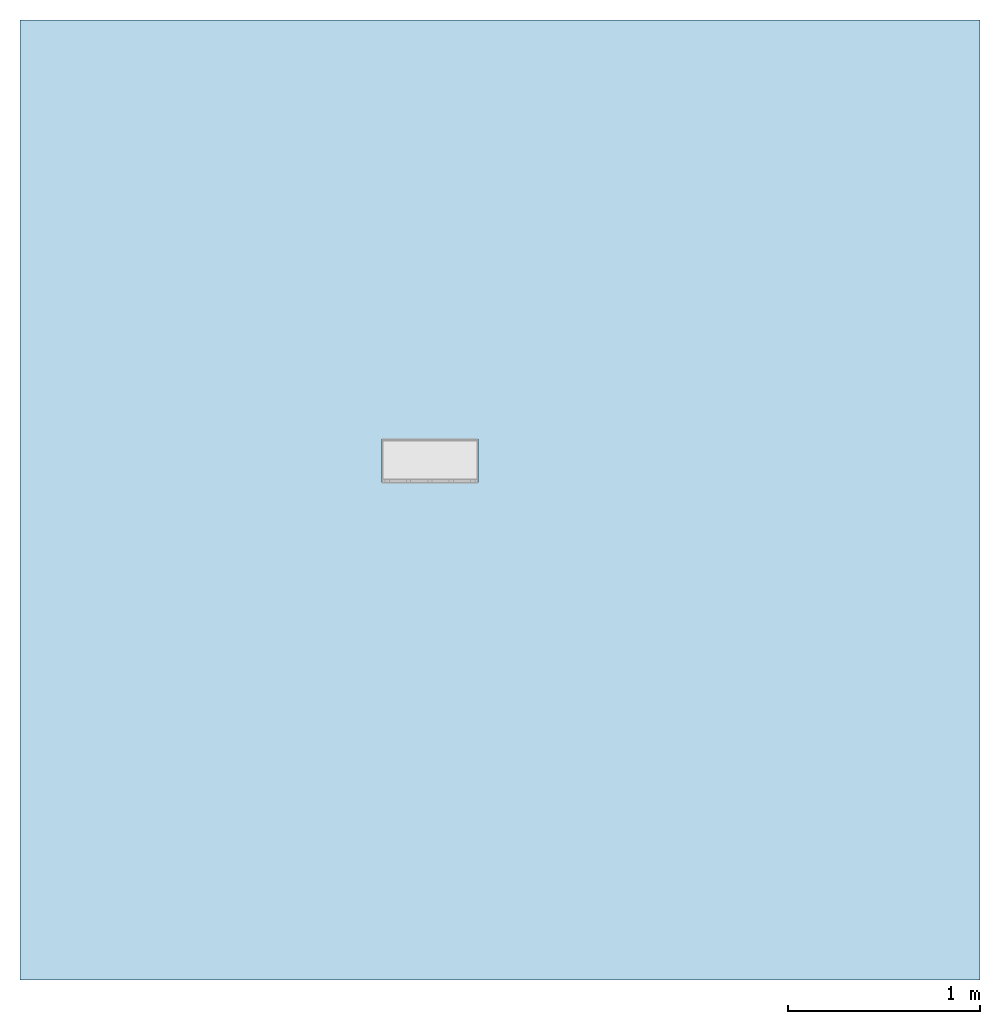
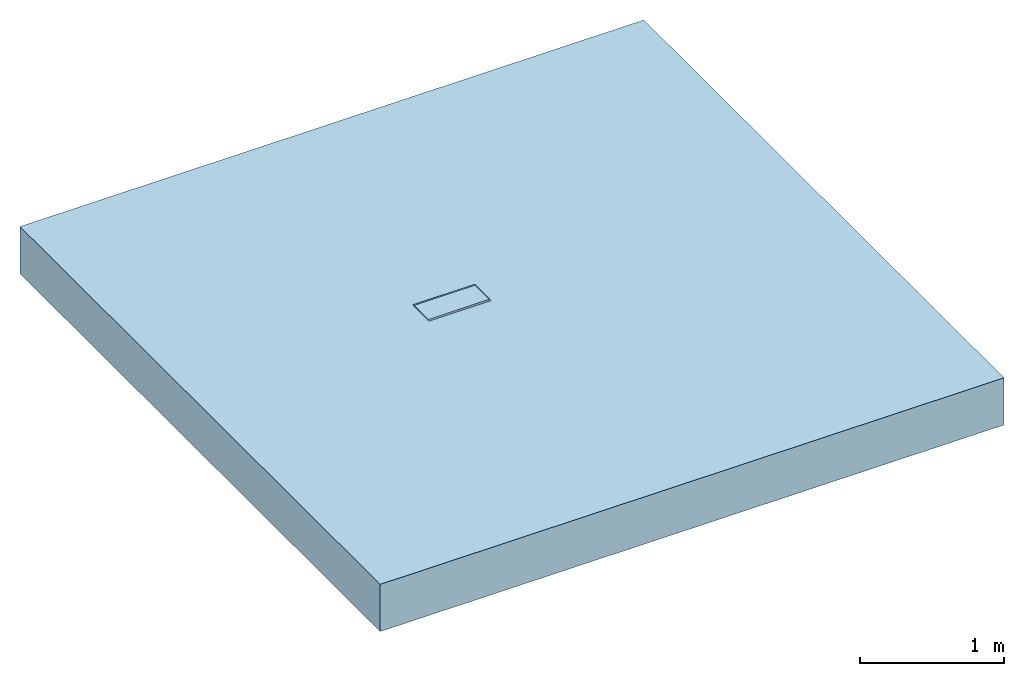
# One storey, incomplete: 1 slab, 2 openings.
"""IFC2X3 building model written with IfcOpenShell, lengths in millimetres."""

from ifc_helpers import new_model, entity, si_unit, converted_unit, direction, frame, frame_2d, origin, origin_2d_with_axis, place, context, subcontext, project, spatial, rectangle, extrude, faceted_brep, material, layer, layer_set, layer_usage, element, save


model = new_model("IFC2X3")

# Units and contexts
model_context = context("Model", 3, precision=1e-06, world=origin(), true_north=direction((2.0, 6.12303176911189e-17, 1.0)))
context_of_model = context(None, 3, precision=1e-06, world=origin(), true_north=direction((2.0, 6.12303176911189e-17, 1.0)))
body_context = subcontext(model_context, "Body", "Model", "MODEL_VIEW")
ifc_project = project(units=[si_unit("LENGTHUNIT", "METRE", prefix="MILLI"), si_unit("AREAUNIT", "SQUARE_METRE", prefix="MILLI"), si_unit("VOLUMEUNIT", "CUBIC_METRE", prefix="MILLI"), converted_unit("PLANEANGLEUNIT", "DEGREE", entity("IfcRatioMeasure", 0.0174532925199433), si_unit("PLANEANGLEUNIT", "RADIAN"), dimensions=[0, 0, 0, 0, 0, 0, 0]), si_unit("TIMEUNIT", "SECOND")], contexts=[model_context, context_of_model])

# Site, building, storey
site_placement = place(None, origin())
site = spatial("IfcSite", under=ifc_project, at=site_placement, Name="Default", CompositionType="ELEMENT")
building_placement = place(site_placement, origin())
building = spatial("IfcBuilding", under=site, at=building_placement, CompositionType="ELEMENT")
storey_placement = place(building_placement, origin())
storey = spatial("IfcBuildingStorey", under=building, at=storey_placement, Name="Level 1", CompositionType="ELEMENT", Elevation=0.0)

# Slab, openings
ifc_material = material(Name="Earth")
ifc_layer = layer(ifc_material, 400.0)
ifc_layer_set = layer_set([ifc_layer], Name="Floor:Generic Floor - 400mm")
ifc_layer_usage = layer_usage(ifc_layer_set, "AXIS3", "POSITIVE", 0.0)
slab_placement = place(storey_placement, origin())
slab = element("IfcSlab", 1, at=slab_placement, inside=storey, material=ifc_layer_usage, Name="Floor:Generic Floor - 400mm", ObjectType="Floor:Generic Floor - 400mm", PredefinedType="FLOOR", context=body_context, shape_type="SweptSolid", body=[
    extrude(rectangle(XDim=5000.0, YDim=5000.0, at=frame_2d((0.0, 0.0), x_axis=(0.0, -1.0))), frame((0.0, 0.0, 0.0), z_axis=(0.0, 0.0, -1.0), x_axis=(-1.0, 0.0, 0.0)), (0.0, 0.0, 1.0), 400.0),
])
opening_1_placement = place(slab_placement, frame((-614.877498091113, 85.9392836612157, -895.0)))
element("IfcOpeningElement", 2, at=opening_1_placement, cuts=slab, ObjectType="Opening", context=body_context, shape_type="SweptSolid", body=[
    extrude(rectangle(XDim=18.0000000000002, YDim=500.0, at=origin_2d_with_axis()), frame((-364.877498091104, 99.1892836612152, -6605.0), z_axis=(0.0, 0.0, 1.0), x_axis=(0.0, 1.0, 0.0)), (0.0, 0.0, 1.0), 105.00000000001),
])
opening_2_placement = place(slab_placement, frame((-614.877498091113, 85.9392836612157, -895.0)))
element("IfcOpeningElement", 3, at=opening_2_placement, cuts=slab, ObjectType="Opening", context=body_context, shape_type="Brep", body=[
    faceted_brep([(0.0, 4.24999999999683, 790.0), (500.0, 4.24999999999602, 790.0), (500.0, 0.0, 790.0), (0.0, 0.0, 790.0), (0.0, 230.749999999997, 790.0), (500.0, 235.0, 790.0), (500.0, 230.749999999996, 790.0), (0.0, 235.0, 790.0), (6.0, 220.749999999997, 790.0), (494.0, 220.749999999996, 790.0), (494.0, 22.249999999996, 790.0), (6.0, 22.2499999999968, 790.0), (0.0, 235.0, 0.0), (0.0, 0.0, 0.0), (0.0, 230.749999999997, 895.0), (0.0, 4.2499999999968, 895.0), (500.0, 0.0, 0.0), (500.0, 235.0, 0.0), (500.0, 4.24999999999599, 895.0), (500.0, 230.749999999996, 895.0), (494.0, 220.749999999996, 895.0), (6.0, 220.749999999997, 895.0), (6.0, 22.2499999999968, 895.0), (494.0, 22.249999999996, 895.0)], [[[0, 1, 2]], [[2, 3, 0]], [[4, 5, 6]], [[5, 4, 7]], [[8, 9, 10]], [[10, 11, 8]], [[7, 4, 12]], [[13, 12, 4]], [[14, 0, 4]], [[3, 13, 0]], [[4, 0, 13]], [[14, 15, 0]], [[2, 1, 16]], [[17, 16, 1]], [[18, 6, 1]], [[5, 17, 6]], [[1, 6, 17]], [[18, 19, 6]], [[13, 16, 17]], [[17, 12, 13]], [[12, 17, 5]], [[5, 7, 12]], [[3, 2, 16]], [[16, 13, 3]], [[20, 21, 14]], [[22, 14, 21]], [[23, 20, 19]], [[14, 19, 20]], [[18, 15, 22]], [[14, 22, 15]], [[19, 18, 23]], [[22, 23, 18]], [[0, 15, 18]], [[18, 1, 0]], [[4, 19, 14]], [[19, 4, 6]], [[8, 21, 20]], [[20, 9, 8]], [[9, 20, 23]], [[23, 10, 9]], [[10, 23, 22]], [[22, 11, 10]], [[11, 22, 21]], [[21, 8, 11]]]),
])

save(model, "model.ifc")
